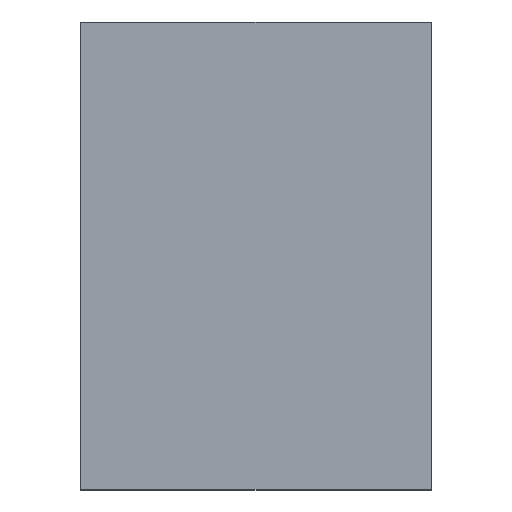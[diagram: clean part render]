
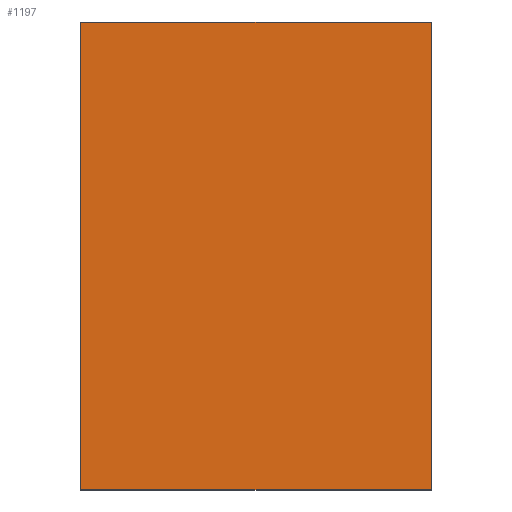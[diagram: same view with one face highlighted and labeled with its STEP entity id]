
A CAD part, top view. The second image highlights one B-rep face of the part: STEP entity #1197.
In plain terms, the highlighted planar face has unit normal (0, 0, 1).
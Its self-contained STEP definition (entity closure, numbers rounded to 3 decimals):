
#22 = FACE_OUTER_BOUND ( 'NONE', #228, .T. ) ;
#83 = AXIS2_PLACEMENT_3D ( 'NONE', #520, #955, #1317 ) ;
#88 = ORIENTED_EDGE ( 'NONE', *, *, #735, .T. ) ;
#141 = LINE ( 'NONE', #1013, #668 ) ;
#153 = LINE ( 'NONE', #1126, #684 ) ;
#228 = EDGE_LOOP ( 'NONE', ( #1118, #88, #1378, #581 ) ) ;
#244 = VERTEX_POINT ( 'NONE', #1389 ) ;
#291 = DIRECTION ( 'NONE',  ( 0., -1., 0. ) ) ;
#426 = VERTEX_POINT ( 'NONE', #919 ) ;
#520 = CARTESIAN_POINT ( 'NONE',  ( 0., 0., 4. ) ) ;
#560 = DIRECTION ( 'NONE',  ( -1., 0., 0. ) ) ;
#581 = ORIENTED_EDGE ( 'NONE', *, *, #1373, .T. ) ;
#605 = VECTOR ( 'NONE', #1167, 1000. ) ;
#630 = CARTESIAN_POINT ( 'NONE',  ( -299.5, 0., 4. ) ) ;
#668 = VECTOR ( 'NONE', #560, 1000. ) ;
#684 = VECTOR ( 'NONE', #813, 1000. ) ;
#735 = EDGE_CURVE ( 'NONE', #1314, #244, #141, .T. ) ;
#773 = CARTESIAN_POINT ( 'NONE',  ( 299.5, 399.5, 4. ) ) ;
#813 = DIRECTION ( 'NONE',  ( 0., 1., 0. ) ) ;
#893 = VECTOR ( 'NONE', #291, 1000. ) ;
#919 = CARTESIAN_POINT ( 'NONE',  ( 299.5, -399.5, 4. ) ) ;
#955 = DIRECTION ( 'NONE',  ( 0., 0., -1. ) ) ;
#1013 = CARTESIAN_POINT ( 'NONE',  ( 0., 399.5, 4. ) ) ;
#1118 = ORIENTED_EDGE ( 'NONE', *, *, #1357, .T. ) ;
#1126 = CARTESIAN_POINT ( 'NONE',  ( 299.5, 0., 4. ) ) ;
#1157 = CARTESIAN_POINT ( 'NONE',  ( 0., -399.5, 4. ) ) ;
#1167 = DIRECTION ( 'NONE',  ( 1., 0., 0. ) ) ;
#1197 = ADVANCED_FACE ( 'NONE', ( #22 ), #1201, .F. ) ;
#1201 = PLANE ( 'NONE',  #83 ) ;
#1214 = EDGE_CURVE ( 'NONE', #244, #1343, #1270, .T. ) ;
#1270 = LINE ( 'NONE', #630, #893 ) ;
#1277 = CARTESIAN_POINT ( 'NONE',  ( -299.5, -399.5, 4. ) ) ;
#1314 = VERTEX_POINT ( 'NONE', #773 ) ;
#1317 = DIRECTION ( 'NONE',  ( -1., 0., 0. ) ) ;
#1320 = LINE ( 'NONE', #1157, #605 ) ;
#1343 = VERTEX_POINT ( 'NONE', #1277 ) ;
#1357 = EDGE_CURVE ( 'NONE', #426, #1314, #153, .T. ) ;
#1373 = EDGE_CURVE ( 'NONE', #1343, #426, #1320, .T. ) ;
#1378 = ORIENTED_EDGE ( 'NONE', *, *, #1214, .T. ) ;
#1389 = CARTESIAN_POINT ( 'NONE',  ( -299.5, 399.5, 4. ) ) ;
